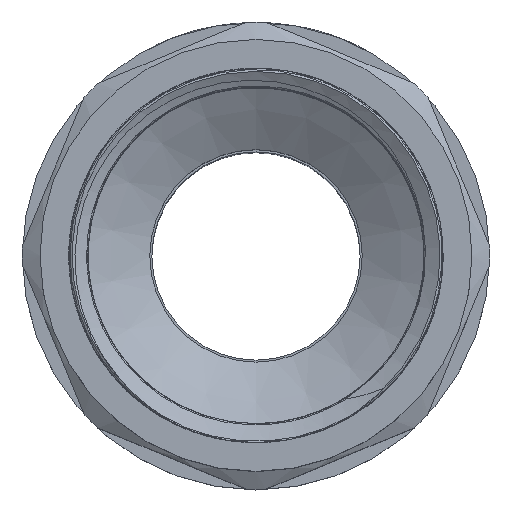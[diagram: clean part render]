
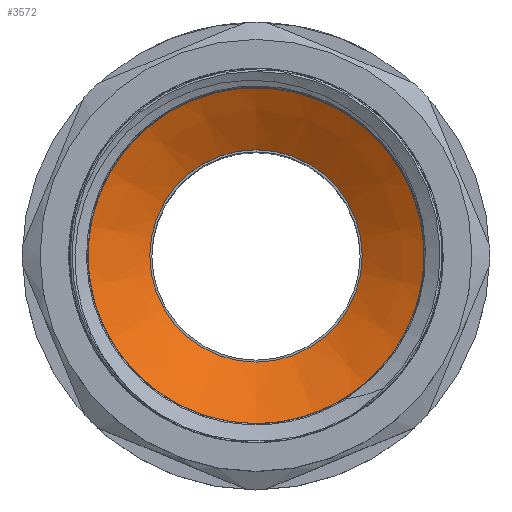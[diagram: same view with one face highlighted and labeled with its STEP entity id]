
A CAD part, top view. The second image highlights one B-rep face of the part: STEP entity #3572.
In plain terms, the highlighted conical face has half-angle 60 degrees and reference radius 10.36 mm.
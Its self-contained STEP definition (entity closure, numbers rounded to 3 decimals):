
#567=FACE_OUTER_BOUND('',#780,.T.);
#780=EDGE_LOOP('',(#3262,#3263,#3264,#3265,#3266,#3267));
#1013=LINE('',#7550,#1216);
#1216=VECTOR('',#4601,10.36);
#1374=CIRCLE('',#3868,7.5);
#1375=CIRCLE('',#3869,7.5);
#1376=CIRCLE('',#3871,13.22);
#1377=CIRCLE('',#3872,13.22);
#1717=VERTEX_POINT('',#7543);
#1718=VERTEX_POINT('',#7545);
#1719=VERTEX_POINT('',#7549);
#1720=VERTEX_POINT('',#7551);
#2240=EDGE_CURVE('',#1718,#1717,#1374,.T.);
#2241=EDGE_CURVE('',#1717,#1718,#1375,.T.);
#2242=EDGE_CURVE('',#1717,#1719,#1013,.T.);
#2243=EDGE_CURVE('',#1720,#1719,#1376,.T.);
#2244=EDGE_CURVE('',#1719,#1720,#1377,.T.);
#3262=ORIENTED_EDGE('',*,*,#2240,.T.);
#3263=ORIENTED_EDGE('',*,*,#2242,.T.);
#3264=ORIENTED_EDGE('',*,*,#2243,.F.);
#3265=ORIENTED_EDGE('',*,*,#2244,.F.);
#3266=ORIENTED_EDGE('',*,*,#2242,.F.);
#3267=ORIENTED_EDGE('',*,*,#2241,.T.);
#3400=CONICAL_SURFACE('',#3870,10.36,1.047);
#3572=ADVANCED_FACE('',(#567),#3400,.F.);
#3868=AXIS2_PLACEMENT_3D('',#7546,#4595,#4596);
#3869=AXIS2_PLACEMENT_3D('',#7547,#4597,#4598);
#3870=AXIS2_PLACEMENT_3D('',#7548,#4599,#4600);
#3871=AXIS2_PLACEMENT_3D('',#7552,#4602,#4603);
#3872=AXIS2_PLACEMENT_3D('',#7553,#4604,#4605);
#4595=DIRECTION('center_axis',(0.,0.,-1.));
#4596=DIRECTION('ref_axis',(1.,0.,0.));
#4597=DIRECTION('center_axis',(0.,0.,-1.));
#4598=DIRECTION('ref_axis',(1.,0.,0.));
#4599=DIRECTION('center_axis',(0.,0.,1.));
#4600=DIRECTION('ref_axis',(0.,-1.,0.));
#4601=DIRECTION('',(0.,0.866,0.5));
#4602=DIRECTION('center_axis',(0.,0.,-1.));
#4603=DIRECTION('ref_axis',(1.,0.,0.));
#4604=DIRECTION('center_axis',(0.,0.,-1.));
#4605=DIRECTION('ref_axis',(1.,0.,0.));
#7543=CARTESIAN_POINT('',(0.,7.5,40.698));
#7545=CARTESIAN_POINT('',(0.,-7.5,40.698));
#7546=CARTESIAN_POINT('Origin',(0.,0.,40.698));
#7547=CARTESIAN_POINT('Origin',(0.,0.,40.698));
#7548=CARTESIAN_POINT('Origin',(0.,0.,42.349));
#7549=CARTESIAN_POINT('',(0.,13.22,44.));
#7550=CARTESIAN_POINT('',(0.,10.36,42.349));
#7551=CARTESIAN_POINT('',(0.,-13.22,44.));
#7552=CARTESIAN_POINT('Origin',(0.,0.,44.));
#7553=CARTESIAN_POINT('Origin',(0.,0.,44.));
